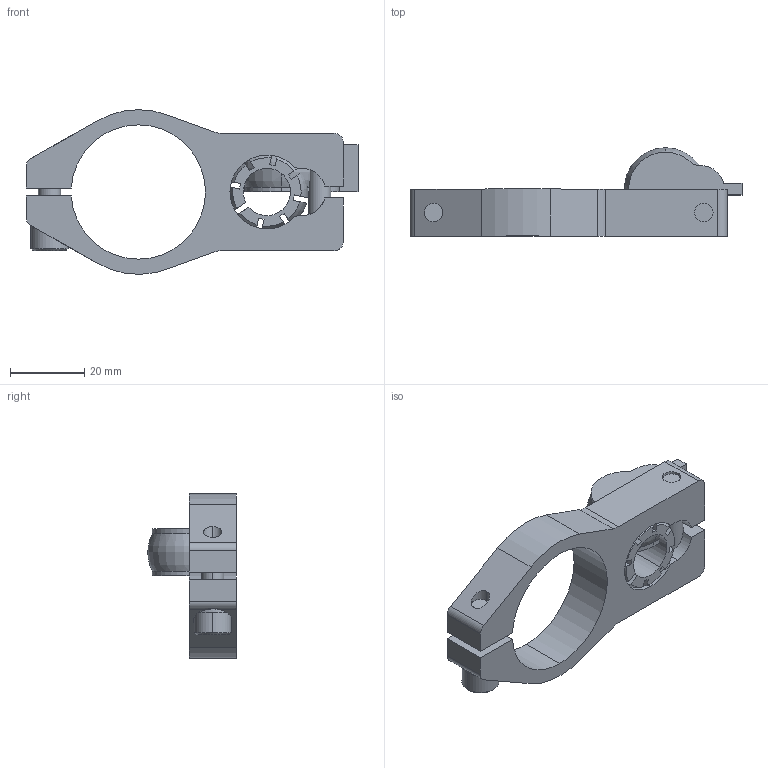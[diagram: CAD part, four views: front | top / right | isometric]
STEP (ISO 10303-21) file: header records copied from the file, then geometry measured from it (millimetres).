
FILE_DESCRIPTION (( 'STEP AP214' ), '1' );
FILE_NAME ('RTI-NPC-50-SPT10.STEP', '2013-10-22T14:26:21', ( 'user' ), ( '' ), 'SwSTEP 2.0', 'SolidWorks 2009', '' );
FILE_SCHEMA (( 'AUTOMOTIVE_DESIGN' ));
Length unit declared in the file: inch
Products named in the file (8): RTI-NPC-50-36-DC; .500 Ball Cavity; .875 OD_.502 ID_Swivel_Ball; M6 S.H.C.S._M6x20mm; M6 S.H.C.S._M6x25mm; M6 WASHER; Part8^RTI-NPC-50-SPT10; RTI-NPC-50-SPT10
Assembly tree (7 placements, depth 2):
  Part8^RTI-NPC-50-SPT10
  RTI-NPC-50-SPT10
    M6 WASHER  x2
    M6 S.H.C.S._M6x25mm
    M6 S.H.C.S._M6x20mm
    .875 OD_.502 ID_Swivel_Ball
    .500 Ball Cavity
    RTI-NPC-50-36-DC
Bounding box: 89.69 x 23.88 x 44.45 mm (x, y, z)
Volume: 26195.3 mm3; surface area: 15203.2 mm2
Topology: 7 solids, 7 shells, 462 faces, 1196 edges, 792 vertices
Faces by surface type: plane 254, bspline 127, cylinder 59, torus 14, cone 8
Entity records: 26911 total; most frequent: CARTESIAN_POINT 12415, ORIENTED_EDGE 2368, DIRECTION 1710, EDGE_CURVE 1184, VERTEX_POINT 784, LINE 764, VECTOR 764, EDGE_LOOP 510
